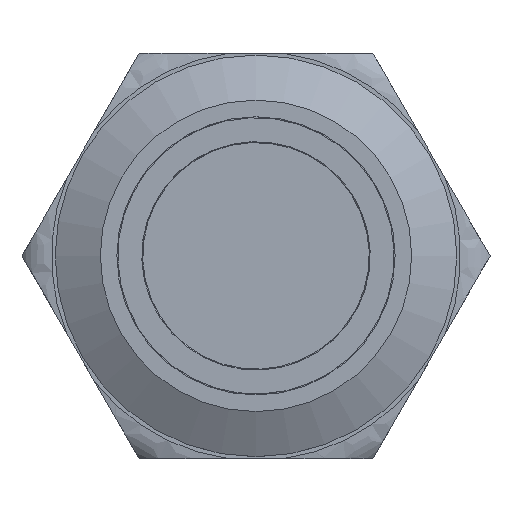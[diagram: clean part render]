
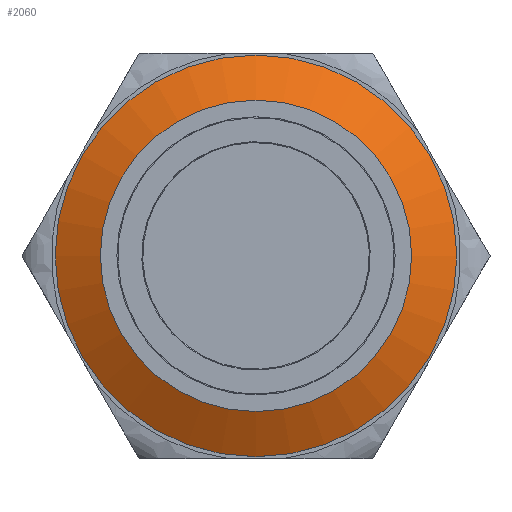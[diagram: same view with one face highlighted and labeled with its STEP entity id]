
A CAD part, top view. The second image highlights one B-rep face of the part: STEP entity #2060.
In plain terms, the highlighted conical face has half-angle 62.049 degrees and reference radius 10.9 mm.
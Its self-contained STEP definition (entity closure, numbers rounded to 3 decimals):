
#1603=CONICAL_SURFACE('',#4686,10.9,62.049);
#2060=ADVANCED_FACE('',(#2328,#2329),#1603,.T.);
#2328=FACE_BOUND('',#2437,.T.);
#2329=FACE_BOUND('',#2438,.T.);
#2437=EDGE_LOOP('',(#2733));
#2438=EDGE_LOOP('',(#2734));
#2733=ORIENTED_EDGE('',*,*,#4048,.F.);
#2734=ORIENTED_EDGE('',*,*,#4047,.F.);
#3702=VERTEX_POINT('',#5926);
#3703=VERTEX_POINT('',#5929);
#4047=EDGE_CURVE('',#3702,#3702,#4553,.T.);
#4048=EDGE_CURVE('',#3703,#3703,#4554,.T.);
#4553=CIRCLE('',#4658,10.9);
#4554=CIRCLE('',#4660,8.45);
#4658=AXIS2_PLACEMENT_3D('',#5925,#4981,#4982);
#4660=AXIS2_PLACEMENT_3D('',#5928,#4985,#4986);
#4686=AXIS2_PLACEMENT_3D('',#6844,#5037,#5038);
#4981=DIRECTION('',(0.,0.,-1.));
#4982=DIRECTION('',(-1.,0.,0.));
#4985=DIRECTION('',(0.,0.,1.));
#4986=DIRECTION('',(-1.,0.,0.));
#5037=DIRECTION('',(0.,0.,-1.));
#5038=DIRECTION('',(-1.,0.,0.));
#5925=CARTESIAN_POINT('',(0.,0.,10.));
#5926=CARTESIAN_POINT('',(-10.9,0.,10.));
#5928=CARTESIAN_POINT('',(0.,0.,11.3));
#5929=CARTESIAN_POINT('',(-8.45,0.,11.3));
#6844=CARTESIAN_POINT('',(0.,0.,10.));
